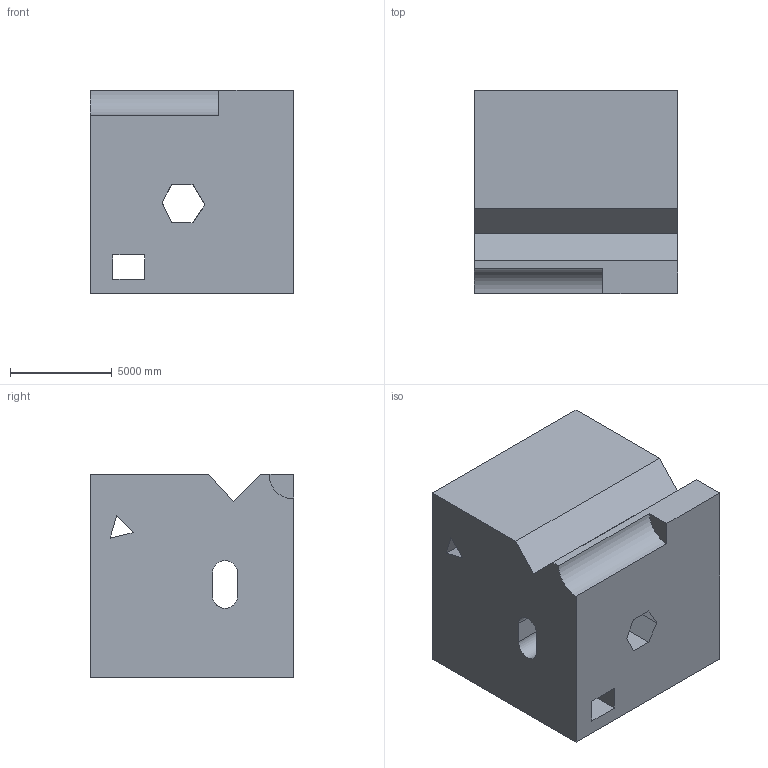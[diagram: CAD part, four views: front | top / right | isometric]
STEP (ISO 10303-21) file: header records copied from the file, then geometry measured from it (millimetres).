
FILE_DESCRIPTION (( 'STEP AP203' ), '1' );
FILE_NAME ('1754.STEP', '2022-08-19T12:25:15', ( 'user' ), ( '' ), 'SwSTEP 2.0', 'SolidWorks 2021', '' );
FILE_SCHEMA (( 'CONFIG_CONTROL_DESIGN' ));
Length unit declared in the file: centimetre
Products named in the file (1): 1754
Bounding box: 10000 x 10000 x 10000 mm (x, y, z)
Volume: 869632198732.9 mm3; surface area: 868535385.2 mm2
Topology: 1 solids, 1 shells, 48 faces, 141 edges, 94 vertices
Faces by surface type: plane 39, cylinder 9
Entity records: 1682 total; most frequent: CARTESIAN_POINT 314, ORIENTED_EDGE 282, DIRECTION 245, EDGE_CURVE 141, LINE 115, VECTOR 115, VERTEX_POINT 94, AXIS2_PLACEMENT_3D 65
